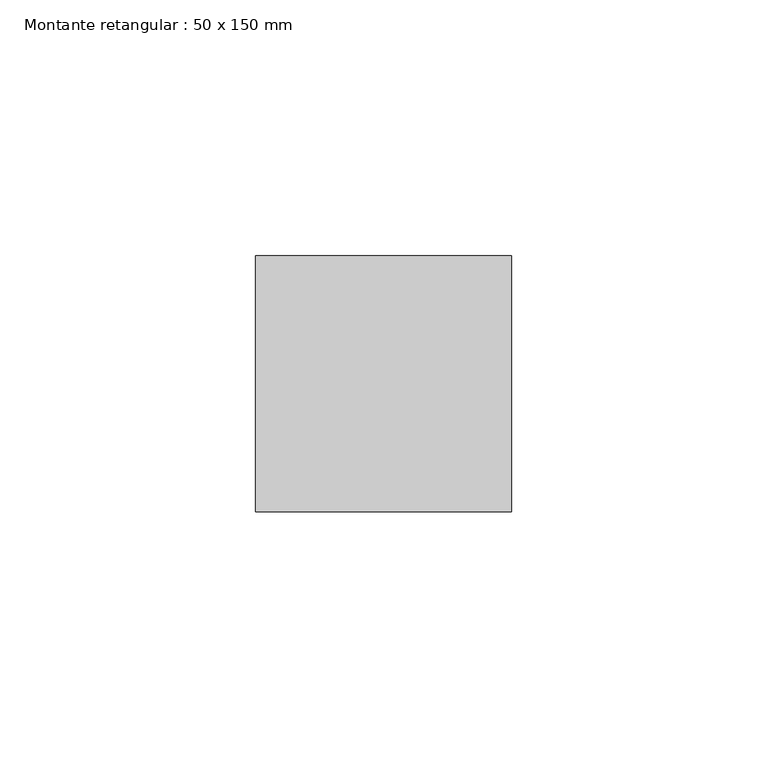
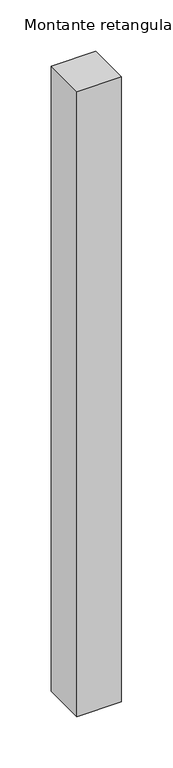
"""IFC4 building model written with IfcOpenShell, lengths in millimetres: member geometry, Montante retangular : 50 x 150 mm."""

from ifc_helpers import new_model, si_unit, frame, origin, place, context, project, spatial, polyline, outline, extrude, source, transform, mapped, element, save


def montante_retangular_50_x_150_mm_03841237(model_context):
    return source(origin(), model_context, "Body", "SweptSolid", [
        extrude(outline(polyline([(25.0, 25.0), (25.0, -25.0), (-25.0, -25.0), (-25.0, 25.0), (25.0, 25.0)])), frame((0.0, 0.0, -743.3333333), z_axis=(0.0, 0.0, 1.0), x_axis=(1.0, 0.0, 0.0)), (0.0, 0.0, 1.0), 743.3333333),
    ])


if __name__ == "__main__":
    model = new_model("IFC4")
    model_context = context("Model", 3, world=origin())
    ifc_project = project(units=[si_unit("LENGTHUNIT", "METRE", prefix="MILLI")], contexts=[model_context])
    site = spatial("IfcSite", under=ifc_project)
    building = spatial("IfcBuilding", under=site)
    placement = place(None, origin())
    montante_retangular_50_x_150_mm_shape = montante_retangular_50_x_150_mm_03841237(model_context)
    element("IfcMember", 1, ObjectType="Montante retangular : 50 x 150 mm", at=placement, inside=building, context=model_context, shape_type="MappedRepresentation", body=[
        mapped(montante_retangular_50_x_150_mm_shape, transform((0.0, 0.0, 0.0), x_axis=(1.0, 0.0, 0.0), y_axis=(0.0, 1.0, 0.0), z_axis=(0.0, 0.0, 1.0))),
    ])
    save(model, "model.ifc")
